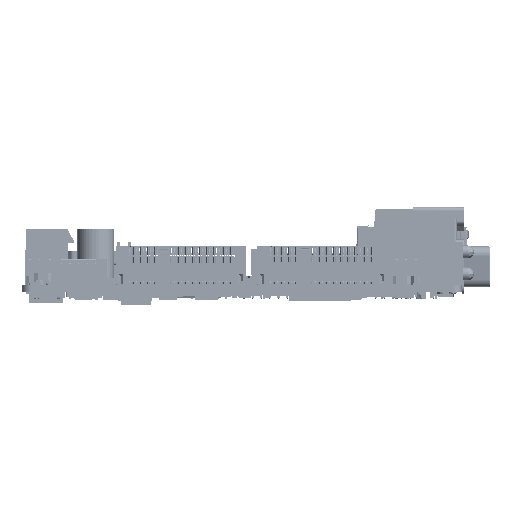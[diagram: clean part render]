
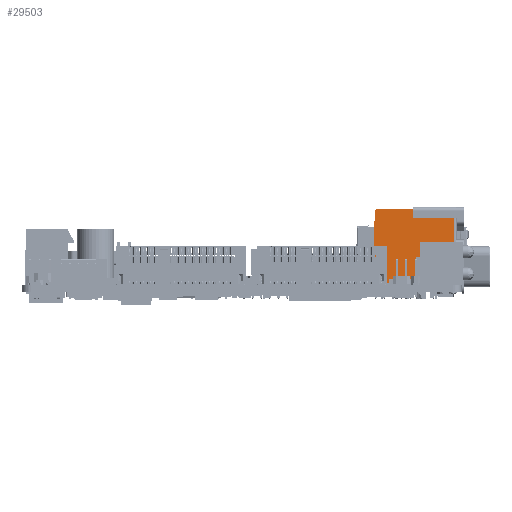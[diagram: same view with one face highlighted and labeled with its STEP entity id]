
A CAD part, left-side view. The second image highlights one B-rep face of the part: STEP entity #29503.
In plain terms, the highlighted planar face has unit normal (-1, 0, 0).
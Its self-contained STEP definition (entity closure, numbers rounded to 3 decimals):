
#16487=CARTESIAN_POINT('',(-9.,-8.525,-18.5));
#16488=DIRECTION('',(1.,0.,0.));
#16489=DIRECTION('',(0.,0.,-1.));
#16490=AXIS2_PLACEMENT_3D('',#16487,#16488,#16489);
#16496=CARTESIAN_POINT('',(-9.,-10.065,
-17.5));
#16497=DIRECTION('',(1.,0.,0.));
#16498=DIRECTION('',(0.,0.,1.));
#16499=AXIS2_PLACEMENT_3D('',#16496,#16497,#16498);
#16501=CARTESIAN_POINT('',(-9.,-9.465,-17.5));
#16502=DIRECTION('',(1.,0.,0.));
#16503=DIRECTION('',(0.,0.,-1.));
#16504=AXIS2_PLACEMENT_3D('',#16501,#16502,#16503);
#16506=CARTESIAN_POINT('',(-9.,-10.065,
-17.5));
#16507=DIRECTION('',(1.,0.,0.));
#16508=DIRECTION('',(0.,-1.,0.));
#16509=AXIS2_PLACEMENT_3D('',#16506,#16507,#16508);
#16511=DIRECTION('',(0.,1.,0.));
#16512=VECTOR('',#16511,0.25);
#16513=CARTESIAN_POINT('',(-9.,-8.775,-16.25));
#16514=LINE('',#16513,#16512);
#16515=CARTESIAN_POINT('',(-9.,-10.525,-17.5));
#16516=DIRECTION('',(-1.,0.,0.));
#16517=DIRECTION('',(0.,0.,-1.));
#16518=AXIS2_PLACEMENT_3D('',#16515,#16516,#16517);
#16520=DIRECTION('',(0.,-1.,0.));
#16521=VECTOR('',#16520,0.25);
#16522=CARTESIAN_POINT('',(-9.,-8.525,-18.75));
#16523=LINE('',#16522,#16521);
#16524=DIRECTION('',(0.,0.,-1.));
#16525=VECTOR('',#16524,1.8);
#16526=CARTESIAN_POINT('',(-9.,-8.775,-18.75));
#16527=LINE('',#16526,#16525);
#16528=DIRECTION('',(0.,-1.,0.));
#16529=VECTOR('',#16528,2.5);
#16530=CARTESIAN_POINT('',(-9.,-6.275,-20.55));
#16531=LINE('',#16530,#16529);
#16532=DIRECTION('',(0.,0.,-1.));
#16533=VECTOR('',#16532,0.2);
#16534=CARTESIAN_POINT('',(-9.,-6.275,-20.55));
#16535=LINE('',#16534,#16533);
#16536=DIRECTION('',(0.,-1.,0.));
#16537=VECTOR('',#16536,2.25);
#16538=CARTESIAN_POINT('',(-9.,7.975,-20.55));
#16539=LINE('',#16538,#16537);
#16540=CARTESIAN_POINT('',(-9.,7.975,-20.05));
#16541=DIRECTION('',(-1.,0.,0.));
#16542=DIRECTION('',(0.,1.,0.));
#16543=AXIS2_PLACEMENT_3D('',#16540,#16541,#16542);
#16545=DIRECTION('',(0.,0.,-1.));
#16546=VECTOR('',#16545,8.25);
#16547=CARTESIAN_POINT('',(-9.,8.475,-11.8));
#16548=LINE('',#16547,#16546);
#16549=DIRECTION('',(0.,-1.,0.));
#16550=VECTOR('',#16549,2.05);
#16551=CARTESIAN_POINT('',(-9.,8.475,-11.8));
#16552=LINE('',#16551,#16550);
#16553=DIRECTION('',(0.,0.,-1.));
#16554=VECTOR('',#16553,9.7);
#16555=CARTESIAN_POINT('',(-9.,6.425,-2.1));
#16556=LINE('',#16555,#16554);
#16557=DIRECTION('',(0.,0.,1.));
#16558=VECTOR('',#16557,1.7);
#16559=CARTESIAN_POINT('',(-9.,-8.775,-3.8));
#16560=LINE('',#16559,#16558);
#16561=DIRECTION('',(0.,-1.,0.));
#16562=VECTOR('',#16561,0.25);
#16563=CARTESIAN_POINT('',(-9.,-8.775,-3.8));
#16564=LINE('',#16563,#16562);
#16565=DIRECTION('',(0.,0.,-1.));
#16566=VECTOR('',#16565,1.5);
#16567=CARTESIAN_POINT('',(-9.,-9.025,-3.8));
#16568=LINE('',#16567,#16566);
#16569=DIRECTION('',(0.,1.,0.));
#16570=VECTOR('',#16569,0.25);
#16571=CARTESIAN_POINT('',(-9.,-9.025,-5.3));
#16572=LINE('',#16571,#16570);
#16573=DIRECTION('',(0.,0.,-1.));
#16574=VECTOR('',#16573,10.95);
#16575=CARTESIAN_POINT('',(-9.,-8.775,-5.3));
#16576=LINE('',#16575,#16574);
#16582=DIRECTION('',(0.,1.,0.));
#16583=VECTOR('',#16582,0.6);
#16584=CARTESIAN_POINT('',(-9.,-10.065,
-17.275));
#16585=LINE('',#16584,#16583);
#16615=DIRECTION('',(0.,-1.,0.));
#16616=VECTOR('',#16615,0.6);
#16617=CARTESIAN_POINT('',(-9.,-9.465,
-17.725));
#16618=LINE('',#16617,#16616);
#16637=CARTESIAN_POINT('',(-9.,-8.525,-16.5));
#16638=DIRECTION('',(1.,0.,0.));
#16639=DIRECTION('',(0.,0.,-1.));
#16640=AXIS2_PLACEMENT_3D('',#16637,#16638,#16639);
#16650=DIRECTION('',(0.,1.,0.));
#16651=VECTOR('',#16650,2.);
#16652=CARTESIAN_POINT('',(-9.,-10.525,-16.75));
#16653=LINE('',#16652,#16651);
#16719=DIRECTION('',(0.,-1.,0.));
#16720=VECTOR('',#16719,2.);
#16721=CARTESIAN_POINT('',(-9.,-8.525,-18.25));
#16722=LINE('',#16721,#16720);
#18044=DIRECTION('',(0.,1.,0.));
#18045=VECTOR('',#18044,15.2);
#18046=CARTESIAN_POINT('',(-9.,-8.775,-2.1));
#18047=LINE('',#18046,#18045);
#18858=DIRECTION('',(0.,0.,-1.));
#18859=VECTOR('',#18858,0.2);
#18860=CARTESIAN_POINT('',(-9.,5.725,-20.55));
#18861=LINE('',#18860,#18859);
#18870=DIRECTION('',(0.,1.,0.));
#18871=VECTOR('',#18870,12.);
#18872=CARTESIAN_POINT('',(-9.,-6.275,-20.75));
#18873=LINE('',#18872,#18871);
#20618=CARTESIAN_POINT('',(-9.,7.975,-20.55));
#20620=VERTEX_POINT('',#20618);
#20624=CARTESIAN_POINT('',(-9.,8.475,-20.05));
#20625=VERTEX_POINT('',#20624);
#20718=CARTESIAN_POINT('',(-9.,-8.775,-2.1));
#20719=CARTESIAN_POINT('',(-9.,6.425,-2.1));
#20720=VERTEX_POINT('',#20718);
#20721=VERTEX_POINT('',#20719);
#20722=CARTESIAN_POINT('',(-9.,6.425,-11.8));
#20723=VERTEX_POINT('',#20722);
#20724=CARTESIAN_POINT('',(-9.,8.475,-11.8));
#20725=VERTEX_POINT('',#20724);
#20726=CARTESIAN_POINT('',(-9.,-8.775,-20.55));
#20728=VERTEX_POINT('',#20726);
#20730=CARTESIAN_POINT('',(-9.,-10.525,-18.25));
#20731=VERTEX_POINT('',#20730);
#20732=CARTESIAN_POINT('',(-9.,-10.525,-16.75));
#20733=VERTEX_POINT('',#20732);
#20734=CARTESIAN_POINT('',(-9.,-8.775,-3.8));
#20735=VERTEX_POINT('',#20734);
#20736=CARTESIAN_POINT('',(-9.,-8.775,-5.3));
#20737=VERTEX_POINT('',#20736);
#20738=CARTESIAN_POINT('',(-9.,-9.025,-5.3));
#20739=VERTEX_POINT('',#20738);
#20740=CARTESIAN_POINT('',(-9.,-9.025,-3.8));
#20741=VERTEX_POINT('',#20740);
#20742=CARTESIAN_POINT('',(-9.,-10.065,
-17.275));
#20743=CARTESIAN_POINT('',(-9.,-9.465,
-17.275));
#20744=VERTEX_POINT('',#20742);
#20745=VERTEX_POINT('',#20743);
#20752=CARTESIAN_POINT('',(-9.,-9.465,-17.725));
#20753=VERTEX_POINT('',#20752);
#20754=CARTESIAN_POINT('',(-9.,-10.29,-17.5));
#20755=VERTEX_POINT('',#20754);
#20756=CARTESIAN_POINT('',(-9.,-10.065,
-17.725));
#20757=VERTEX_POINT('',#20756);
#20766=CARTESIAN_POINT('',(-9.,-6.275,-20.75));
#20767=VERTEX_POINT('',#20766);
#20768=CARTESIAN_POINT('',(-9.,5.725,-20.75));
#20769=VERTEX_POINT('',#20768);
#20770=CARTESIAN_POINT('',(-9.,-6.275,-20.55));
#20772=VERTEX_POINT('',#20770);
#20774=CARTESIAN_POINT('',(-9.,5.725,-20.55));
#20776=VERTEX_POINT('',#20774);
#20820=CARTESIAN_POINT('',(-9.,-8.775,-16.25));
#20821=VERTEX_POINT('',#20820);
#20822=CARTESIAN_POINT('',(-9.,-8.775,-18.75));
#20823=VERTEX_POINT('',#20822);
#20830=CARTESIAN_POINT('',(-9.,-8.525,-18.75));
#20831=VERTEX_POINT('',#20830);
#20832=CARTESIAN_POINT('',(-9.,-8.525,-18.25));
#20833=VERTEX_POINT('',#20832);
#20838=CARTESIAN_POINT('',(-9.,-8.525,-16.75));
#20839=VERTEX_POINT('',#20838);
#20840=CARTESIAN_POINT('',(-9.,-8.525,-16.25));
#20841=VERTEX_POINT('',#20840);
#29443=CARTESIAN_POINT('',(-9.,-1.401,-11.325));
#29444=DIRECTION('',(1.,0.,0.));
#29445=DIRECTION('',(0.,-1.,0.));
#29446=AXIS2_PLACEMENT_3D('',#29443,#29444,#29445);
#29447=PLANE('',#29446);
#29449=ORIENTED_EDGE('',*,*,#29448,.T.);
#29451=ORIENTED_EDGE('',*,*,#29450,.F.);
#29453=ORIENTED_EDGE('',*,*,#29452,.F.);
#29455=ORIENTED_EDGE('',*,*,#29454,.F.);
#29457=ORIENTED_EDGE('',*,*,#29456,.F.);
#29458=ORIENTED_EDGE('',*,*,#29423,.F.);
#29459=ORIENTED_EDGE('',*,*,#29438,.T.);
#29460=ORIENTED_EDGE('',*,*,#20942,.T.);
#29462=ORIENTED_EDGE('',*,*,#29461,.F.);
#29464=ORIENTED_EDGE('',*,*,#29463,.T.);
#29466=ORIENTED_EDGE('',*,*,#29465,.T.);
#29468=ORIENTED_EDGE('',*,*,#29467,.F.);
#29470=ORIENTED_EDGE('',*,*,#29469,.F.);
#29472=ORIENTED_EDGE('',*,*,#29471,.F.);
#29474=ORIENTED_EDGE('',*,*,#29473,.F.);
#29476=ORIENTED_EDGE('',*,*,#29475,.T.);
#29478=ORIENTED_EDGE('',*,*,#29477,.F.);
#29480=ORIENTED_EDGE('',*,*,#29479,.F.);
#29481=ORIENTED_EDGE('',*,*,#20906,.F.);
#29483=ORIENTED_EDGE('',*,*,#29482,.T.);
#29485=ORIENTED_EDGE('',*,*,#29484,.T.);
#29487=ORIENTED_EDGE('',*,*,#29486,.T.);
#29488=ORIENTED_EDGE('',*,*,#20898,.T.);
#29489=EDGE_LOOP('',(#29449,#29451,#29453,#29455,#29457,#29458,#29459,#29460,
#29462,#29464,#29466,#29468,#29470,#29472,#29474,#29476,#29478,#29480,#29481,
#29483,#29485,#29487,#29488));
#29490=FACE_OUTER_BOUND('',#29489,.F.);
#29492=ORIENTED_EDGE('',*,*,#29491,.F.);
#29494=ORIENTED_EDGE('',*,*,#29493,.T.);
#29496=ORIENTED_EDGE('',*,*,#29495,.F.);
#29498=ORIENTED_EDGE('',*,*,#29497,.T.);
#29500=ORIENTED_EDGE('',*,*,#29499,.F.);
#29501=EDGE_LOOP('',(#29492,#29494,#29496,#29498,#29500));
#29502=FACE_BOUND('',#29501,.F.);
#29503=ADVANCED_FACE('',(#29490,#29502),#29447,.F.);
#16491=CIRCLE('',#16490,0.25);
#16500=CIRCLE('',#16499,0.225);
#16505=CIRCLE('',#16504,0.225);
#16510=CIRCLE('',#16509,0.225);
#16519=CIRCLE('',#16518,0.75);
#16544=CIRCLE('',#16543,0.5);
#16641=CIRCLE('',#16640,0.25);
#20898=EDGE_CURVE('',#20737,#20821,#16576,.T.);
#20906=EDGE_CURVE('',#20735,#20720,#16560,.T.);
#20942=EDGE_CURVE('',#20823,#20728,#16527,.T.);
#29423=EDGE_CURVE('',#20831,#20833,#16491,.T.);
#29438=EDGE_CURVE('',#20831,#20823,#16523,.T.);
#29448=EDGE_CURVE('',#20821,#20841,#16514,.T.);
#29450=EDGE_CURVE('',#20839,#20841,#16641,.T.);
#29452=EDGE_CURVE('',#20733,#20839,#16653,.T.);
#29454=EDGE_CURVE('',#20731,#20733,#16519,.T.);
#29456=EDGE_CURVE('',#20833,#20731,#16722,.T.);
#29461=EDGE_CURVE('',#20772,#20728,#16531,.T.);
#29463=EDGE_CURVE('',#20772,#20767,#16535,.T.);
#29465=EDGE_CURVE('',#20767,#20769,#18873,.T.);
#29467=EDGE_CURVE('',#20776,#20769,#18861,.T.);
#29469=EDGE_CURVE('',#20620,#20776,#16539,.T.);
#29471=EDGE_CURVE('',#20625,#20620,#16544,.T.);
#29473=EDGE_CURVE('',#20725,#20625,#16548,.T.);
#29475=EDGE_CURVE('',#20725,#20723,#16552,.T.);
#29477=EDGE_CURVE('',#20721,#20723,#16556,.T.);
#29479=EDGE_CURVE('',#20720,#20721,#18047,.T.);
#29482=EDGE_CURVE('',#20735,#20741,#16564,.T.);
#29484=EDGE_CURVE('',#20741,#20739,#16568,.T.);
#29486=EDGE_CURVE('',#20739,#20737,#16572,.T.);
#29491=EDGE_CURVE('',#20744,#20755,#16500,.T.);
#29493=EDGE_CURVE('',#20744,#20745,#16585,.T.);
#29495=EDGE_CURVE('',#20753,#20745,#16505,.T.);
#29497=EDGE_CURVE('',#20753,#20757,#16618,.T.);
#29499=EDGE_CURVE('',#20755,#20757,#16510,.T.);
